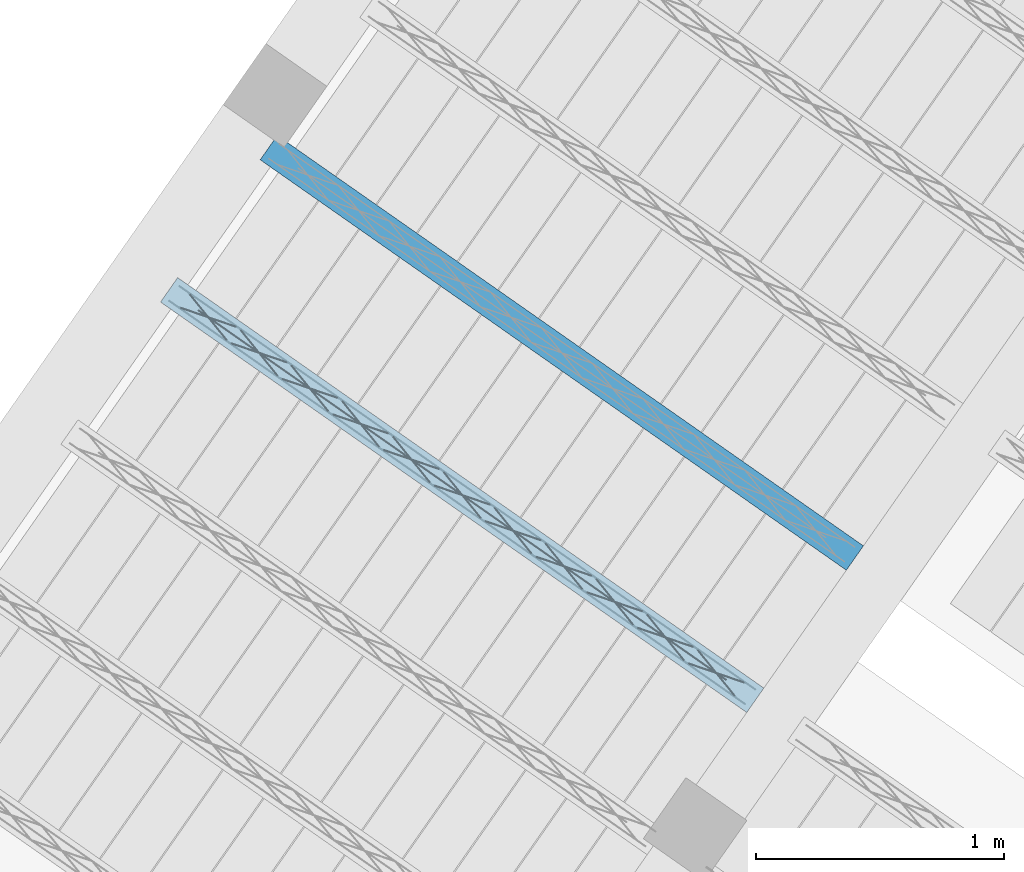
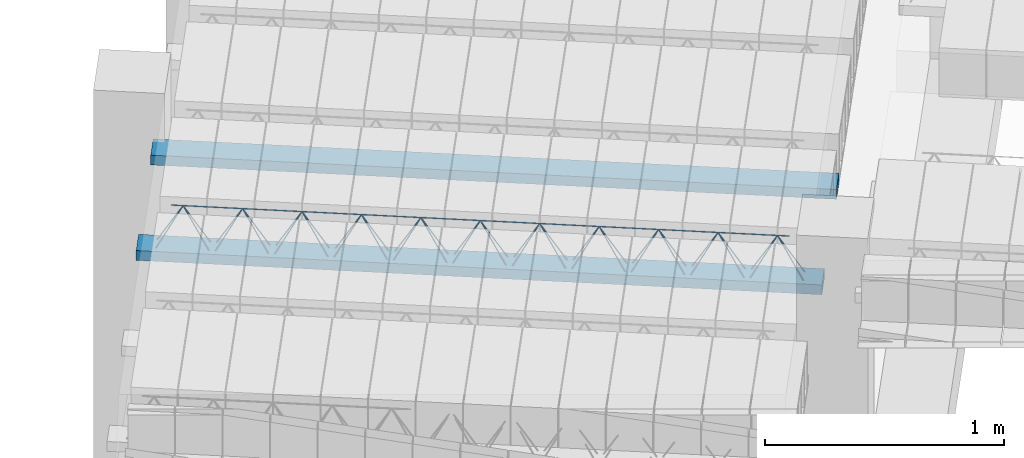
# One storey, part 15 of 80: 2 beams.
"""IFC2X3 building model written with IfcOpenShell, lengths in metres."""

from ifc_helpers import new_model, entity, si_unit, converted_unit, derived_unit, direction, frame, frame_2d, origin, origin_2d_with_axis, place, context, subcontext, project, spatial, rectangle, circle, extrude, material, type_object, element, save


model = new_model("IFC2X3")

# Units and contexts
model_context = context("Model", 3, precision=1e-05, world=origin(), true_north=direction((6.123031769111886e-17, 1.0)))
body_context = subcontext(model_context, "Body", "Model", "MODEL_VIEW")
ifc_project = project(units=[si_unit("LENGTHUNIT", "METRE"), si_unit("AREAUNIT", "SQUARE_METRE"), si_unit("VOLUMEUNIT", "CUBIC_METRE"), converted_unit("PLANEANGLEUNIT", "DEGREE", entity("IfcPlaneAngleMeasure", 0.017453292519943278), si_unit("PLANEANGLEUNIT", "RADIAN"), dimensions=[0, 0, 0, 0, 0, 0, 0]), si_unit("MASSUNIT", "GRAM", prefix="KILO"), derived_unit("MASSDENSITYUNIT", [(si_unit("MASSUNIT", "GRAM", prefix="KILO"), 1), (si_unit("LENGTHUNIT", "METRE"), -3)]), derived_unit("IONCONCENTRATIONUNIT", [(si_unit("MASSUNIT", "GRAM", prefix="KILO"), 1), (si_unit("LENGTHUNIT", "METRE"), -3)]), derived_unit("MOMENTOFINERTIAUNIT", [(si_unit("LENGTHUNIT", "METRE"), 4)]), si_unit("TIMEUNIT", "SECOND"), si_unit("FREQUENCYUNIT", "HERTZ"), si_unit("THERMODYNAMICTEMPERATUREUNIT", "DEGREE_CELSIUS"), derived_unit("THERMALTRANSMITTANCEUNIT", [(si_unit("MASSUNIT", "GRAM", prefix="KILO"), 1), (si_unit("THERMODYNAMICTEMPERATUREUNIT", "KELVIN"), -1), (si_unit("TIMEUNIT", "SECOND"), -3)]), derived_unit("THERMALCONDUCTANCEUNIT", [(si_unit("MASSUNIT", "GRAM", prefix="KILO"), 1), (si_unit("THERMODYNAMICTEMPERATUREUNIT", "KELVIN"), -1), (si_unit("TIMEUNIT", "SECOND"), -3), (si_unit("LENGTHUNIT", "METRE"), 1)]), derived_unit("VOLUMETRICFLOWRATEUNIT", [(si_unit("LENGTHUNIT", "METRE", prefix="DECI"), 3), (si_unit("TIMEUNIT", "SECOND"), -1)]), derived_unit("MASSFLOWRATEUNIT", [(si_unit("MASSUNIT", "GRAM", prefix="KILO"), 1), (si_unit("TIMEUNIT", "SECOND"), -1)]), derived_unit("ROTATIONALFREQUENCYUNIT", [(si_unit("TIMEUNIT", "SECOND"), -1)]), si_unit("ELECTRICCURRENTUNIT", "AMPERE"), si_unit("ELECTRICVOLTAGEUNIT", "VOLT"), si_unit("POWERUNIT", "WATT"), si_unit("FORCEUNIT", "NEWTON", prefix="KILO"), si_unit("ILLUMINANCEUNIT", "LUX"), si_unit("LUMINOUSFLUXUNIT", "LUMEN"), si_unit("LUMINOUSINTENSITYUNIT", "CANDELA"), si_unit("ENERGYUNIT", "JOULE"), derived_unit("USERDEFINED", [(si_unit("MASSUNIT", "GRAM", prefix="KILO"), -1), (si_unit("LENGTHUNIT", "METRE"), -2), (si_unit("TIMEUNIT", "SECOND"), 3), (si_unit("LUMINOUSFLUXUNIT", "LUMEN"), 1)]), derived_unit("USERDEFINED", [(si_unit("MASSUNIT", "GRAM", prefix="KILO"), 1), (si_unit("TIMEUNIT", "SECOND"), -3), (si_unit("LENGTHUNIT", "METRE"), 3), (si_unit("ELECTRICCURRENTUNIT", "AMPERE"), -2)]), derived_unit("SOUNDPOWERUNIT", [(si_unit("MASSUNIT", "GRAM", prefix="KILO"), 1), (si_unit("TIMEUNIT", "SECOND"), -3), (si_unit("LENGTHUNIT", "METRE"), 2)]), derived_unit("SOUNDPRESSUREUNIT", [(si_unit("MASSUNIT", "GRAM", prefix="KILO"), 1), (si_unit("LENGTHUNIT", "METRE"), -1), (si_unit("TIMEUNIT", "SECOND"), -2)]), derived_unit("LINEARVELOCITYUNIT", [(si_unit("LENGTHUNIT", "METRE"), 1), (si_unit("TIMEUNIT", "SECOND"), -1)]), si_unit("PRESSUREUNIT", "PASCAL"), derived_unit("USERDEFINED", [(si_unit("MASSUNIT", "GRAM", prefix="KILO"), 1), (si_unit("LENGTHUNIT", "METRE"), -2), (si_unit("TIMEUNIT", "SECOND"), -2)]), derived_unit("LINEARFORCEUNIT", [(si_unit("MASSUNIT", "GRAM", prefix="KILO"), 1), (si_unit("TIMEUNIT", "SECOND"), -2)]), derived_unit("PLANARFORCEUNIT", [(si_unit("MASSUNIT", "GRAM", prefix="KILO"), 1), (si_unit("LENGTHUNIT", "METRE"), -1), (si_unit("TIMEUNIT", "SECOND"), -2)]), derived_unit("SPECIFICHEATCAPACITYUNIT", [(si_unit("THERMODYNAMICTEMPERATUREUNIT", "KELVIN"), -1), (si_unit("LENGTHUNIT", "METRE"), 2), (si_unit("TIMEUNIT", "SECOND"), -2)]), derived_unit("HEATFLUXDENSITYUNIT", [(si_unit("MASSUNIT", "GRAM", prefix="KILO"), 1), (si_unit("TIMEUNIT", "SECOND"), -3)]), derived_unit("HEATINGVALUEUNIT", [(si_unit("LENGTHUNIT", "METRE"), 2), (si_unit("TIMEUNIT", "SECOND"), -2)]), derived_unit("VAPORPERMEABILITYUNIT", [(si_unit("LENGTHUNIT", "METRE"), -1), (si_unit("TIMEUNIT", "SECOND"), 1)]), derived_unit("DYNAMICVISCOSITYUNIT", [(si_unit("MASSUNIT", "GRAM", prefix="KILO"), 1), (si_unit("TIMEUNIT", "SECOND"), -1), (si_unit("LENGTHUNIT", "METRE"), -1)]), derived_unit("THERMALEXPANSIONCOEFFICIENTUNIT", [(si_unit("THERMODYNAMICTEMPERATUREUNIT", "KELVIN"), -1)]), derived_unit("MODULUSOFELASTICITYUNIT", [(si_unit("MASSUNIT", "GRAM", prefix="KILO"), 1), (si_unit("LENGTHUNIT", "METRE"), -1), (si_unit("TIMEUNIT", "SECOND"), -2)]), derived_unit("ISOTHERMALMOISTURECAPACITYUNIT", [(si_unit("MASSUNIT", "GRAM", prefix="KILO"), -1), (si_unit("LENGTHUNIT", "METRE"), 3)]), derived_unit("MOISTUREDIFFUSIVITYUNIT", [(si_unit("TIMEUNIT", "SECOND"), -1), (si_unit("LENGTHUNIT", "METRE"), 2)]), derived_unit("MASSPERLENGTHUNIT", [(si_unit("MASSUNIT", "GRAM", prefix="KILO"), 1), (si_unit("LENGTHUNIT", "METRE"), -1)]), derived_unit("THERMALRESISTANCEUNIT", [(si_unit("MASSUNIT", "GRAM", prefix="KILO"), -1), (si_unit("TIMEUNIT", "SECOND"), 3), (si_unit("THERMODYNAMICTEMPERATUREUNIT", "KELVIN"), 1)]), derived_unit("ACCELERATIONUNIT", [(si_unit("LENGTHUNIT", "METRE"), 1), (si_unit("TIMEUNIT", "SECOND"), -2)]), derived_unit("ANGULARVELOCITYUNIT", [(si_unit("TIMEUNIT", "SECOND"), -1), (si_unit("PLANEANGLEUNIT", "RADIAN"), 1)]), derived_unit("LINEARSTIFFNESSUNIT", [(si_unit("MASSUNIT", "GRAM", prefix="KILO"), 1), (si_unit("TIMEUNIT", "SECOND"), -2)]), derived_unit("WARPINGCONSTANTUNIT", [(si_unit("LENGTHUNIT", "METRE"), 6)]), derived_unit("LINEARMOMENTUNIT", [(si_unit("MASSUNIT", "GRAM", prefix="KILO"), 1), (si_unit("LENGTHUNIT", "METRE"), 1), (si_unit("TIMEUNIT", "SECOND"), -2)]), derived_unit("TORQUEUNIT", [(si_unit("MASSUNIT", "GRAM", prefix="KILO"), 1), (si_unit("LENGTHUNIT", "METRE"), 2), (si_unit("TIMEUNIT", "SECOND"), -2)])], contexts=[model_context])

# Site, building, storey
site_placement = place(None, origin())
site = spatial("IfcSite", under=ifc_project, at=site_placement, Name="Default", CompositionType="ELEMENT")
building_placement = place(site_placement, origin())
building = spatial("IfcBuilding", under=site, at=building_placement, CompositionType="ELEMENT")
storey_placement = place(building_placement, frame((0.0, 0.0, 95.94)))
storey = spatial("IfcBuildingStorey", under=building, at=storey_placement, Name="PB", CompositionType="ELEMENT", Elevation=95.94)

# Beams
beam_type = type_object("IfcBeamType", Name="Vigueta 4 (Paño 2) (Mf = 10.95)", PredefinedType="JOIST")
beam_1_placement = place(storey_placement, origin())
element("IfcBeam", 1, at=beam_1_placement, inside=storey, type_object=beam_type, Name="Vigueta 4 (Paño 2) (Mf = 10.95)", ObjectType="Mf = 10.95", context=body_context, shape_type="SweptSolid", body=[
    extrude(rectangle(XDim=2.8846735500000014, YDim=0.12000000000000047, at=frame_2d((-3.3306690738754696e-16, 6.591949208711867e-17), x_axis=(1.0, 0.0))), frame((1.2058273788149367, 3.6118423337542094, 2.82), z_axis=(0.0, 0.0, 1.0), x_axis=(0.8191520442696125, -0.5735764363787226, 0.0)), (0.0, 0.0, 1.0), 0.04999999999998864),
    extrude(circle(Radius=0.0025, at=origin_2d_with_axis()), frame((2.347012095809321, 2.768828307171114, 2.8449999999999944), z_axis=(-0.8191520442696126, 0.5735764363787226, 0.0), x_axis=(-0.5735764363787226, -0.8191520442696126, 0.0)), (0.0, 0.0, 1.0), 2.83667355),
    extrude(circle(Radius=0.0025, at=origin_2d_with_axis()), frame((2.2707250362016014, 2.866192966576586, 3.069999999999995), z_axis=(-0.8191520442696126, 0.5735764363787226, 0.0), x_axis=(-0.5735764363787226, -0.8191520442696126, 0.0)), (0.0, 0.0, 1.0), 2.6),
    extrude(circle(Radius=0.0025, at=origin_2d_with_axis()), frame((2.3115126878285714, 2.793685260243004, 2.8449999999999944), z_axis=(-0.3145304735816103, 0.389334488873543, 0.8657304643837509), x_axis=(-0.7778747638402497, -0.6284193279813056, 0.0)), (0.0, 0.0, 1.0), 0.2598961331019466),
    extrude(circle(Radius=0.0025, at=origin_2d_with_axis()), frame((2.106724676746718, 2.9370793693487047, 2.8449999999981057), z_axis=(0.47343050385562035, -0.1624017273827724, 0.8657304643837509), x_axis=(-0.3244721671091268, -0.9458952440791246, 0.0)), (0.0, 0.0, 1.0), 0.25989613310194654),
    extrude(circle(Radius=0.0025, at=origin_2d_with_axis()), frame((2.1067246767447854, 2.9370793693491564, 2.8449999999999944), z_axis=(-0.3145304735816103, 0.389334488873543, 0.8657304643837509), x_axis=(-0.7778747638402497, -0.6284193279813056, 0.0)), (0.0, 0.0, 1.0), 0.2598961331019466),
    extrude(circle(Radius=0.0025, at=origin_2d_with_axis()), frame((1.901936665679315, 3.0804734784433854, 2.8449999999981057), z_axis=(0.47343050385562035, -0.1624017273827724, 0.8657304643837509), x_axis=(-0.3244721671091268, -0.9458952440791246, 0.0)), (0.0, 0.0, 1.0), 0.25989613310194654),
    extrude(circle(Radius=0.0025, at=origin_2d_with_axis()), frame((1.901936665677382, 3.080473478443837, 2.8449999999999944), z_axis=(-0.3145304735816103, 0.389334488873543, 0.8657304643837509), x_axis=(-0.7778747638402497, -0.6284193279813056, 0.0)), (0.0, 0.0, 1.0), 0.2598961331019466),
    extrude(circle(Radius=0.0025, at=origin_2d_with_axis()), frame((1.6971486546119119, 3.223867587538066, 2.8449999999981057), z_axis=(0.47343050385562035, -0.1624017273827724, 0.8657304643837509), x_axis=(-0.3244721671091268, -0.9458952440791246, 0.0)), (0.0, 0.0, 1.0), 0.25989613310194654),
    extrude(circle(Radius=0.0025, at=origin_2d_with_axis()), frame((1.697148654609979, 3.2238675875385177, 2.8449999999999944), z_axis=(-0.3145304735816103, 0.389334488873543, 0.8657304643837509), x_axis=(-0.7778747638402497, -0.6284193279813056, 0.0)), (0.0, 0.0, 1.0), 0.2598961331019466),
    extrude(circle(Radius=0.0025, at=origin_2d_with_axis()), frame((1.492360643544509, 3.3672616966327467, 2.8449999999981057), z_axis=(0.47343050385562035, -0.1624017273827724, 0.8657304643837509), x_axis=(-0.3244721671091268, -0.9458952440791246, 0.0)), (0.0, 0.0, 1.0), 0.25989613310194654),
    extrude(circle(Radius=0.0025, at=origin_2d_with_axis()), frame((1.4923606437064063, 3.367261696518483, 2.8449999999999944), z_axis=(-0.3145304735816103, 0.389334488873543, 0.8657304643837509), x_axis=(-0.7778747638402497, -0.6284193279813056, 0.0)), (0.0, 0.0, 1.0), 0.2598961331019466),
    extrude(circle(Radius=0.0025, at=origin_2d_with_axis()), frame((1.2875726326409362, 3.510655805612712, 2.8449999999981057), z_axis=(0.47343050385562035, -0.1624017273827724, 0.8657304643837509), x_axis=(-0.3244721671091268, -0.9458952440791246, 0.0)), (0.0, 0.0, 1.0), 0.25989613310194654),
    extrude(circle(Radius=0.0025, at=origin_2d_with_axis()), frame((1.287572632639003, 3.5106558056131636, 2.8449999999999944), z_axis=(-0.3145304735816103, 0.389334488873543, 0.8657304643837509), x_axis=(-0.7778747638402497, -0.6284193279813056, 0.0)), (0.0, 0.0, 1.0), 0.2598961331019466),
    extrude(circle(Radius=0.0025, at=origin_2d_with_axis()), frame((1.0827846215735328, 3.6540499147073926, 2.8449999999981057), z_axis=(0.47343050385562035, -0.1624017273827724, 0.8657304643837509), x_axis=(-0.3244721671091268, -0.9458952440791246, 0.0)), (0.0, 0.0, 1.0), 0.25989613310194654),
    extrude(circle(Radius=0.0025, at=origin_2d_with_axis()), frame((1.0827846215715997, 3.6540499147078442, 2.8449999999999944), z_axis=(-0.3145304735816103, 0.389334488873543, 0.8657304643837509), x_axis=(-0.7778747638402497, -0.6284193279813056, 0.0)), (0.0, 0.0, 1.0), 0.2598961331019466),
    extrude(circle(Radius=0.0025, at=origin_2d_with_axis()), frame((0.8779966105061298, 3.7974440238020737, 2.8449999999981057), z_axis=(0.47343050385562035, -0.1624017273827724, 0.8657304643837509), x_axis=(-0.3244721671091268, -0.9458952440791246, 0.0)), (0.0, 0.0, 1.0), 0.25989613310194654),
    extrude(circle(Radius=0.0025, at=origin_2d_with_axis()), frame((0.8779966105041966, 3.7974440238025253, 2.8449999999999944), z_axis=(-0.3145304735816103, 0.389334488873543, 0.8657304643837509), x_axis=(-0.7778747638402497, -0.6284193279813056, 0.0)), (0.0, 0.0, 1.0), 0.2598961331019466),
    extrude(circle(Radius=0.0025, at=origin_2d_with_axis()), frame((0.6732085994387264, 3.940838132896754, 2.8449999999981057), z_axis=(0.47343050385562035, -0.1624017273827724, 0.8657304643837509), x_axis=(-0.3244721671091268, -0.9458952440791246, 0.0)), (0.0, 0.0, 1.0), 0.25989613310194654),
    extrude(circle(Radius=0.0025, at=origin_2d_with_axis()), frame((0.6732085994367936, 3.9408381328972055, 2.8449999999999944), z_axis=(-0.3145304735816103, 0.389334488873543, 0.8657304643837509), x_axis=(-0.7778747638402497, -0.6284193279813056, 0.0)), (0.0, 0.0, 1.0), 0.2598961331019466),
    extrude(circle(Radius=0.0025, at=origin_2d_with_axis()), frame((0.46842058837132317, 4.084232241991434, 2.8449999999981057), z_axis=(0.47343050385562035, -0.1624017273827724, 0.8657304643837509), x_axis=(-0.3244721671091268, -0.9458952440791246, 0.0)), (0.0, 0.0, 1.0), 0.25989613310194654),
    extrude(circle(Radius=0.0025, at=origin_2d_with_axis()), frame((0.4684205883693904, 4.084232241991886, 2.8449999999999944), z_axis=(-0.3145304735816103, 0.389334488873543, 0.8657304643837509), x_axis=(-0.7778747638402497, -0.6284193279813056, 0.0)), (0.0, 0.0, 1.0), 0.2598961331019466),
    extrude(circle(Radius=0.0025, at=origin_2d_with_axis()), frame((0.26363257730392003, 4.227626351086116, 2.8449999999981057), z_axis=(0.47343050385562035, -0.1624017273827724, 0.8657304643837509), x_axis=(-0.3244721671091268, -0.9458952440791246, 0.0)), (0.0, 0.0, 1.0), 0.25989613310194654),
    extrude(circle(Radius=0.0025, at=origin_2d_with_axis()), frame((0.26363257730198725, 4.227626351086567, 2.8449999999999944), z_axis=(-0.3145304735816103, 0.389334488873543, 0.8657304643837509), x_axis=(-0.7778747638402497, -0.6284193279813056, 0.0)), (0.0, 0.0, 1.0), 0.2598961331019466),
    extrude(circle(Radius=0.0025, at=origin_2d_with_axis()), frame((0.05884456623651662, 4.371020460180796, 2.8449999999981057), z_axis=(0.47343050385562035, -0.1624017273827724, 0.8657304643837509), x_axis=(-0.3244721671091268, -0.9458952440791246, 0.0)), (0.0, 0.0, 1.0), 0.25989613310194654),
    extrude(circle(Radius=0.0025, at=origin_2d_with_axis()), frame((2.388309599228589, 2.8278072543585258, 2.8449999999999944), z_axis=(-0.8191520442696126, 0.5735764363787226, 0.0), x_axis=(-0.5735764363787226, -0.8191520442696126, 0.0)), (0.0, 0.0, 1.0), 2.83667355),
    extrude(circle(Radius=0.0025, at=origin_2d_with_axis()), frame((2.352810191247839, 2.852664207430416, 2.8449999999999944), z_axis=(-0.47343050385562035, 0.1624017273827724, 0.8657304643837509), x_axis=(-0.3244721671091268, -0.9458952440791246, 0.0)), (0.0, 0.0, 1.0), 0.25989613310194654),
    extrude(circle(Radius=0.0025, at=origin_2d_with_axis()), frame((2.148022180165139, 2.9960583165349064, 2.8449999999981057), z_axis=(0.3145304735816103, -0.389334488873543, 0.8657304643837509), x_axis=(-0.7778747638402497, -0.6284193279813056, 0.0)), (0.0, 0.0, 1.0), 0.2598961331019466),
    extrude(circle(Radius=0.0025, at=origin_2d_with_axis()), frame((2.148022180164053, 2.996058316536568, 2.8449999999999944), z_axis=(-0.47343050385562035, 0.1624017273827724, 0.8657304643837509), x_axis=(-0.3244721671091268, -0.9458952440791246, 0.0)), (0.0, 0.0, 1.0), 0.25989613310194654),
    extrude(circle(Radius=0.0025, at=origin_2d_with_axis()), frame((1.9432341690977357, 3.1394524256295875, 2.8449999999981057), z_axis=(0.3145304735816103, -0.389334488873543, 0.8657304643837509), x_axis=(-0.7778747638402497, -0.6284193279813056, 0.0)), (0.0, 0.0, 1.0), 0.2598961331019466),
    extrude(circle(Radius=0.0025, at=origin_2d_with_axis()), frame((1.9432341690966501, 3.1394524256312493, 2.8449999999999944), z_axis=(-0.47343050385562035, 0.1624017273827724, 0.8657304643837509), x_axis=(-0.3244721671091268, -0.9458952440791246, 0.0)), (0.0, 0.0, 1.0), 0.25989613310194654),
    extrude(circle(Radius=0.0025, at=origin_2d_with_axis()), frame((1.7384461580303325, 3.2828465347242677, 2.8449999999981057), z_axis=(0.3145304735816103, -0.389334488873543, 0.8657304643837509), x_axis=(-0.7778747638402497, -0.6284193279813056, 0.0)), (0.0, 0.0, 1.0), 0.2598961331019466),
    extrude(circle(Radius=0.0025, at=origin_2d_with_axis()), frame((1.7384461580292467, 3.2828465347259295, 2.8449999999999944), z_axis=(-0.47343050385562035, 0.1624017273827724, 0.8657304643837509), x_axis=(-0.3244721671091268, -0.9458952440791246, 0.0)), (0.0, 0.0, 1.0), 0.25989613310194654),
    extrude(circle(Radius=0.0025, at=origin_2d_with_axis()), frame((1.5336581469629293, 3.4262406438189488, 2.8449999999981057), z_axis=(0.3145304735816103, -0.389334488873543, 0.8657304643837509), x_axis=(-0.7778747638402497, -0.6284193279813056, 0.0)), (0.0, 0.0, 1.0), 0.2598961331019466),
    extrude(circle(Radius=0.0025, at=origin_2d_with_axis()), frame((1.533658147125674, 3.426240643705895, 2.8449999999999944), z_axis=(-0.47343050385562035, 0.1624017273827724, 0.8657304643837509), x_axis=(-0.3244721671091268, -0.9458952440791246, 0.0)), (0.0, 0.0, 1.0), 0.25989613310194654),
    extrude(circle(Radius=0.0025, at=origin_2d_with_axis()), frame((1.3288701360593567, 3.5696347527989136, 2.8449999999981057), z_axis=(0.3145304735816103, -0.389334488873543, 0.8657304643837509), x_axis=(-0.7778747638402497, -0.6284193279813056, 0.0)), (0.0, 0.0, 1.0), 0.2598961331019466),
    extrude(circle(Radius=0.0025, at=origin_2d_with_axis()), frame((1.3288701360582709, 3.5696347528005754, 2.8449999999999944), z_axis=(-0.47343050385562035, 0.1624017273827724, 0.8657304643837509), x_axis=(-0.3244721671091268, -0.9458952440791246, 0.0)), (0.0, 0.0, 1.0), 0.25989613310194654),
    extrude(circle(Radius=0.0025, at=origin_2d_with_axis()), frame((1.1240821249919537, 3.7130288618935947, 2.8449999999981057), z_axis=(0.3145304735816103, -0.389334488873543, 0.8657304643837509), x_axis=(-0.7778747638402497, -0.6284193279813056, 0.0)), (0.0, 0.0, 1.0), 0.2598961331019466),
    extrude(circle(Radius=0.0025, at=origin_2d_with_axis()), frame((1.1240821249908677, 3.713028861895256, 2.8449999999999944), z_axis=(-0.47343050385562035, 0.1624017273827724, 0.8657304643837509), x_axis=(-0.3244721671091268, -0.9458952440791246, 0.0)), (0.0, 0.0, 1.0), 0.25989613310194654),
    extrude(circle(Radius=0.0025, at=origin_2d_with_axis()), frame((0.9192941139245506, 3.8564229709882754, 2.8449999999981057), z_axis=(0.3145304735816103, -0.389334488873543, 0.8657304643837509), x_axis=(-0.7778747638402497, -0.6284193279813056, 0.0)), (0.0, 0.0, 1.0), 0.2598961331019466),
    extrude(circle(Radius=0.0025, at=origin_2d_with_axis()), frame((0.9192941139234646, 3.856422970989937, 2.8449999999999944), z_axis=(-0.47343050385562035, 0.1624017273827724, 0.8657304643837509), x_axis=(-0.3244721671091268, -0.9458952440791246, 0.0)), (0.0, 0.0, 1.0), 0.25989613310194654),
    extrude(circle(Radius=0.0025, at=origin_2d_with_axis()), frame((0.7145061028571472, 3.9998170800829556, 2.8449999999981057), z_axis=(0.3145304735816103, -0.389334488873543, 0.8657304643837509), x_axis=(-0.7778747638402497, -0.6284193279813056, 0.0)), (0.0, 0.0, 1.0), 0.2598961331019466),
    extrude(circle(Radius=0.0025, at=origin_2d_with_axis()), frame((0.7145061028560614, 3.9998170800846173, 2.8449999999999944), z_axis=(-0.47343050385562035, 0.1624017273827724, 0.8657304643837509), x_axis=(-0.3244721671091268, -0.9458952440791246, 0.0)), (0.0, 0.0, 1.0), 0.25989613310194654),
    extrude(circle(Radius=0.0025, at=origin_2d_with_axis()), frame((0.509718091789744, 4.143211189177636, 2.8449999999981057), z_axis=(0.3145304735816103, -0.389334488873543, 0.8657304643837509), x_axis=(-0.7778747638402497, -0.6284193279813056, 0.0)), (0.0, 0.0, 1.0), 0.2598961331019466),
    extrude(circle(Radius=0.0025, at=origin_2d_with_axis()), frame((0.5097180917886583, 4.143211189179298, 2.8449999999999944), z_axis=(-0.47343050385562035, 0.1624017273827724, 0.8657304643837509), x_axis=(-0.3244721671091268, -0.9458952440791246, 0.0)), (0.0, 0.0, 1.0), 0.25989613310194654),
    extrude(circle(Radius=0.0025, at=origin_2d_with_axis()), frame((0.3049300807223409, 4.286605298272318, 2.8449999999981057), z_axis=(0.3145304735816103, -0.389334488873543, 0.8657304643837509), x_axis=(-0.7778747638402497, -0.6284193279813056, 0.0)), (0.0, 0.0, 1.0), 0.2598961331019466),
    extrude(circle(Radius=0.0025, at=origin_2d_with_axis()), frame((0.30493008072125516, 4.2866052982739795, 2.8449999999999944), z_axis=(-0.47343050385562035, 0.1624017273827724, 0.8657304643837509), x_axis=(-0.3244721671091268, -0.9458952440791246, 0.0)), (0.0, 0.0, 1.0), 0.25989613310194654),
    extrude(circle(Radius=0.0025, at=origin_2d_with_axis()), frame((0.10014206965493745, 4.4299994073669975, 2.8449999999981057), z_axis=(0.3145304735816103, -0.389334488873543, 0.8657304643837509), x_axis=(-0.7778747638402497, -0.6284193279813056, 0.0)), (0.0, 0.0, 1.0), 0.2598961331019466),
])
ifc_material = material(Name="Hormigón armado")
beam_2_placement = place(storey_placement, origin())
element("IfcBeam", 2, at=beam_2_placement, inside=storey, material=ifc_material, Name="237969", context=body_context, shape_type="SweptSolid", body=[
    extrude(rectangle(XDim=0.04999999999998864, YDim=0.11999999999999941, at=frame_2d((1.7324683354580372e-14, 2.0816681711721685e-17), x_axis=(1.0, 0.0))), frame((0.42586664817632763, 5.012518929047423, 2.8450000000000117), z_axis=(0.8191520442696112, -0.5735764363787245, 0.0), x_axis=(0.0, 0.0, -1.0)), (0.0, 0.0, 1.0), 2.884638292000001),
])

save(model, "model.ifc")
